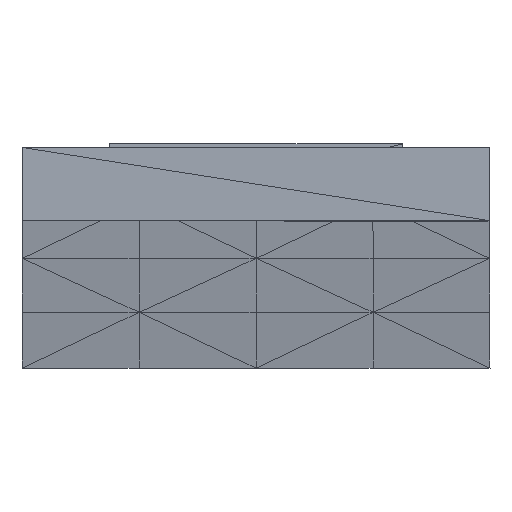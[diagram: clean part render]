
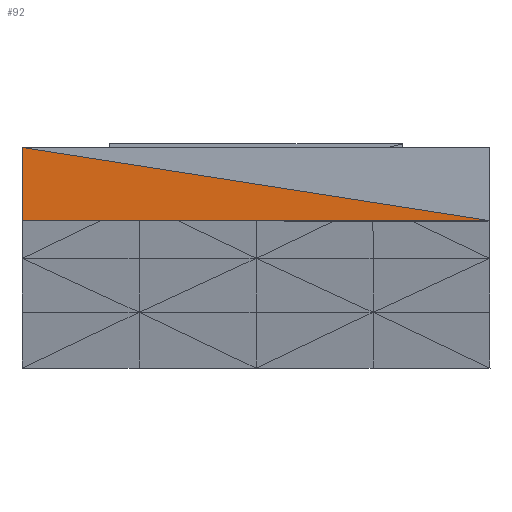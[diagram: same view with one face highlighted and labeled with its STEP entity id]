
A CAD part, top view. The second image highlights one B-rep face of the part: STEP entity #92.
In plain terms, the highlighted planar face has unit normal (0, 0, 1).
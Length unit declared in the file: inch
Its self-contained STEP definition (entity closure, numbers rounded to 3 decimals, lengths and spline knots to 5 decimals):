
#61=CARTESIAN_POINT('',(-0.2,0.10607,0.89002));
#62=DIRECTION('',(0.,0.,1.));
#63=DIRECTION('',(1.,0.,0.));
#64=AXIS2_PLACEMENT_3D('',#61,#62,#63);
#65=PLANE('',#64);
#66=CARTESIAN_POINT('',(-0.2,0.04357,0.89001));
#67=VERTEX_POINT('',#66);
#68=CARTESIAN_POINT('',(-0.2,0.10607,0.89002));
#69=VERTEX_POINT('',#68);
#70=CARTESIAN_POINT('',(-0.2,0.04357,0.89001));
#71=DIRECTION('',(0.,1.,0.));
#72=VECTOR('',#71,0.0625);
#73=LINE('',#70,#72);
#74=EDGE_CURVE('',#67,#69,#73,.T.);
#75=ORIENTED_EDGE('',*,*,#74,.F.);
#76=CARTESIAN_POINT('',(0.2,0.04357,0.89001));
#77=VERTEX_POINT('',#76);
#78=CARTESIAN_POINT('',(-0.2,0.04357,0.89001));
#79=DIRECTION('',(1.,0.,-0.));
#80=VECTOR('',#79,0.4);
#81=LINE('',#78,#80);
#82=EDGE_CURVE('',#67,#77,#81,.T.);
#83=ORIENTED_EDGE('',*,*,#82,.T.);
#84=CARTESIAN_POINT('',(0.2,0.04357,0.89001));
#85=DIRECTION('',(-0.988,0.154,0.));
#86=VECTOR('',#85,0.40485);
#87=LINE('',#84,#86);
#88=EDGE_CURVE('',#77,#69,#87,.T.);
#89=ORIENTED_EDGE('',*,*,#88,.T.);
#90=EDGE_LOOP('',(#75,#83,#89));
#91=FACE_BOUND('',#90,.T.);
#92=ADVANCED_FACE('',(#91),#65,.T.);
